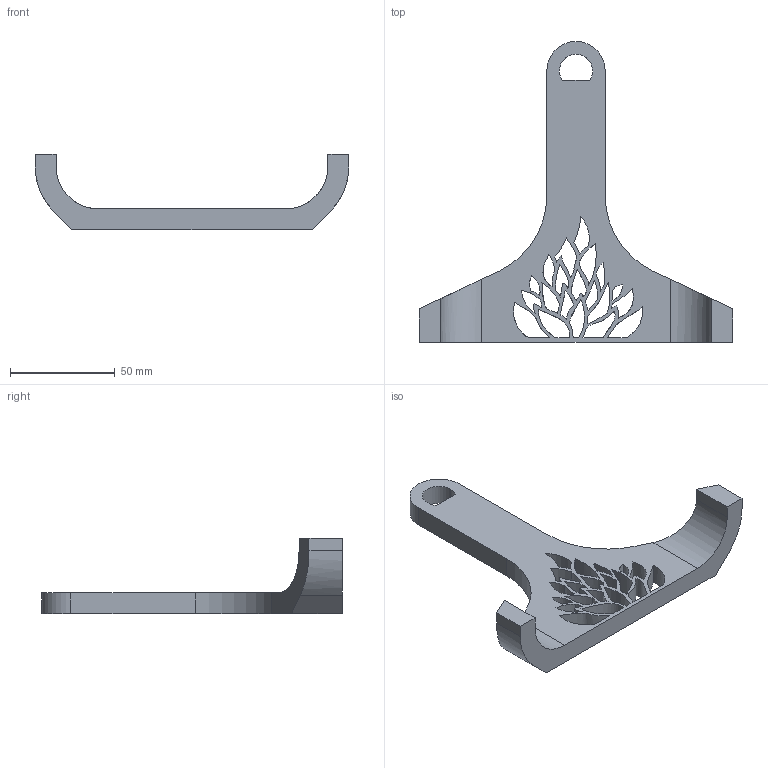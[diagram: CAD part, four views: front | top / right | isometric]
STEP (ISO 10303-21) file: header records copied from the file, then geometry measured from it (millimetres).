
FILE_DESCRIPTION (( 'STEP AP214' ), '1' );
FILE_NAME ('Ferris Wheel - Leg.STEP', '2022-06-13T02:43:21', ( '' ), ( '' ), 'SwSTEP 2.0', 'SolidWorks 2020', '' );
FILE_SCHEMA (( 'AUTOMOTIVE_DESIGN' ));
Length unit declared in the file: millimetre
Products named in the file (1): Ferris Wheel - Leg
Bounding box: 150 x 143.95 x 36 mm (x, y, z)
Volume: 69799.3 mm3; surface area: 28053 mm2
Topology: 1 solids, 1 shells, 101 faces, 297 edges, 198 vertices
Faces by surface type: bspline 70, plane 21, cylinder 10
Entity records: 3689 total; most frequent: CARTESIAN_POINT 1363, ORIENTED_EDGE 594, EDGE_CURVE 297, DIRECTION 233, VERTEX_POINT 198, EDGE_LOOP 143, B_SPLINE_CURVE_WITH_KNOTS 140, LINE 137
